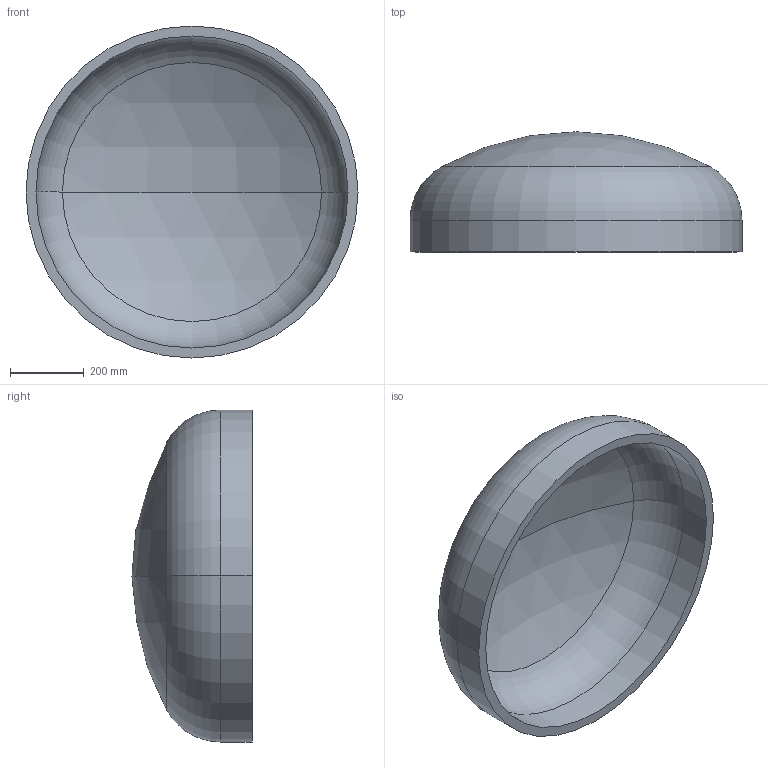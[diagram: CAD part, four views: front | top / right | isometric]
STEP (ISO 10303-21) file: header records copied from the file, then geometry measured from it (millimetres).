
FILE_DESCRIPTION (( 'STEP AP203' ), '1' );
FILE_NAME ('DIN 28013 Korbbogenform_-_Boden DIN 28013 - 900 x 85 - I - s=27.step', '2016-07-01T08:28:39', ( '' ), ( '' ), 'SwSTEP 2.0', 'SolidWorks 2013', '' );
FILE_SCHEMA (( 'CONFIG_CONTROL_DESIGN' ));
Length unit declared in the file: millimetre
Products named in the file (1): DIN 28013 Korbbogenform_-_Boden DIN 28013 - 900 x 85 - I - s=27
Bounding box: 900 x 325.73 x 900 mm (x, y, z)
Volume: 29215798.3 mm3; surface area: 2239709.9 mm2
Topology: 1 solids, 1 shells, 13 faces, 24 edges, 14 vertices
Faces by surface type: torus 4, cylinder 4, sphere 4, plane 1
Entity records: 407 total; most frequent: DIRECTION 72, CARTESIAN_POINT 52, ORIENTED_EDGE 48, AXIS2_PLACEMENT_3D 34, EDGE_CURVE 24, CIRCLE 20, VERTEX_POINT 14, EDGE_LOOP 14
